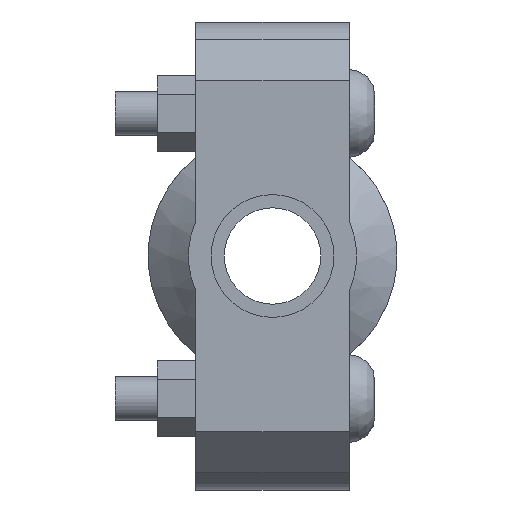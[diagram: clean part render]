
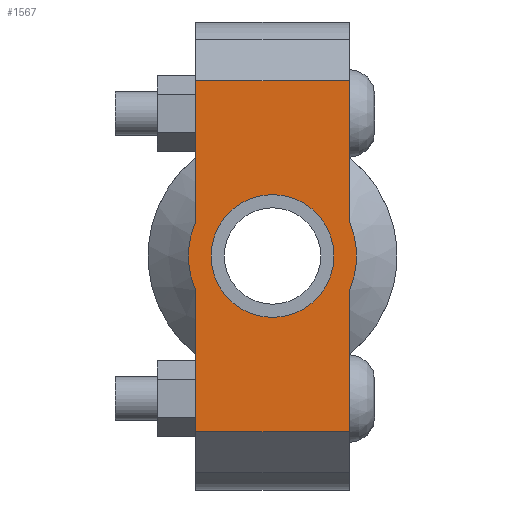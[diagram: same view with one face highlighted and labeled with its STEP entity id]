
A CAD part, left-side view. The second image highlights one B-rep face of the part: STEP entity #1567.
In plain terms, the highlighted planar face has unit normal (-1, 0, 0) as drawn and (0, 0, 1) by its records, which use the part's own axes.
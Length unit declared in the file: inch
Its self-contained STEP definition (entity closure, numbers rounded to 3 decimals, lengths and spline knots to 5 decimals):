
#178=LINE('',#2693,#273);
#193=LINE('',#2752,#288);
#201=LINE('',#2782,#296);
#203=LINE('',#2785,#298);
#204=LINE('',#2790,#299);
#205=LINE('',#2791,#300);
#273=VECTOR('',#2171,0.3937);
#288=VECTOR('',#2206,0.3937);
#296=VECTOR('',#2226,0.3937);
#298=VECTOR('',#2230,0.3937);
#299=VECTOR('',#2235,0.3937);
#300=VECTOR('',#2236,0.3937);
#360=FACE_BOUND('',#519,.T.);
#420=FACE_OUTER_BOUND('',#518,.T.);
#518=EDGE_LOOP('',(#1262,#1263,#1264,#1265,#1266,#1267,#1268,#1269));
#519=EDGE_LOOP('',(#1270));
#624=CIRCLE('',#1830,0.719);
#625=CIRCLE('',#1831,0.719);
#626=CIRCLE('',#1832,0.525);
#733=VERTEX_POINT('',#2690);
#734=VERTEX_POINT('',#2692);
#755=VERTEX_POINT('',#2747);
#756=VERTEX_POINT('',#2751);
#765=VERTEX_POINT('',#2777);
#766=VERTEX_POINT('',#2781);
#767=VERTEX_POINT('',#2787);
#768=VERTEX_POINT('',#2789);
#769=VERTEX_POINT('',#2793);
#903=EDGE_CURVE('',#734,#733,#178,.T.);
#928=EDGE_CURVE('',#756,#755,#193,.T.);
#941=EDGE_CURVE('',#766,#765,#201,.T.);
#943=EDGE_CURVE('',#766,#733,#203,.T.);
#944=EDGE_CURVE('',#765,#767,#624,.T.);
#945=EDGE_CURVE('',#767,#768,#204,.T.);
#946=EDGE_CURVE('',#756,#768,#205,.T.);
#947=EDGE_CURVE('',#755,#734,#625,.T.);
#948=EDGE_CURVE('',#769,#769,#626,.T.);
#1262=ORIENTED_EDGE('',*,*,#943,.F.);
#1263=ORIENTED_EDGE('',*,*,#941,.T.);
#1264=ORIENTED_EDGE('',*,*,#944,.T.);
#1265=ORIENTED_EDGE('',*,*,#945,.T.);
#1266=ORIENTED_EDGE('',*,*,#946,.F.);
#1267=ORIENTED_EDGE('',*,*,#928,.T.);
#1268=ORIENTED_EDGE('',*,*,#947,.T.);
#1269=ORIENTED_EDGE('',*,*,#903,.T.);
#1270=ORIENTED_EDGE('',*,*,#948,.T.);
#1419=PLANE('',#1829);
#1567=ADVANCED_FACE('',(#420,#360),#1419,.T.);
#1829=AXIS2_PLACEMENT_3D('',#2786,#2231,#2232);
#1830=AXIS2_PLACEMENT_3D('',#2788,#2233,#2234);
#1831=AXIS2_PLACEMENT_3D('',#2792,#2237,#2238);
#1832=AXIS2_PLACEMENT_3D('',#2794,#2239,#2240);
#2171=DIRECTION('',(1.,0.,0.));
#2206=DIRECTION('',(1.,0.,0.));
#2226=DIRECTION('',(-1.,0.,0.));
#2230=DIRECTION('',(0.,-1.,0.));
#2231=DIRECTION('center_axis',(0.,0.,1.));
#2232=DIRECTION('ref_axis',(-1.,0.,0.));
#2233=DIRECTION('center_axis',(0.,0.,1.));
#2234=DIRECTION('ref_axis',(1.,0.,0.));
#2235=DIRECTION('',(-1.,0.,0.));
#2236=DIRECTION('',(0.,1.,0.));
#2237=DIRECTION('center_axis',(0.,0.,1.));
#2238=DIRECTION('ref_axis',(1.,0.,0.));
#2239=DIRECTION('center_axis',(0.,0.,-1.));
#2240=DIRECTION('ref_axis',(1.,0.,0.));
#2690=CARTESIAN_POINT('',(1.5,-0.656,0.875));
#2692=CARTESIAN_POINT('',(0.29432,-0.656,0.875));
#2693=CARTESIAN_POINT('',(-2.,-0.656,0.875));
#2747=CARTESIAN_POINT('',(-0.29432,-0.656,0.875));
#2751=CARTESIAN_POINT('',(-1.5,-0.656,0.875));
#2752=CARTESIAN_POINT('',(-2.,-0.656,0.875));
#2777=CARTESIAN_POINT('',(0.29432,0.656,0.875));
#2781=CARTESIAN_POINT('',(1.5,0.656,0.875));
#2782=CARTESIAN_POINT('',(2.,0.656,0.875));
#2785=CARTESIAN_POINT('',(1.5,-0.328,0.875));
#2786=CARTESIAN_POINT('Origin',(0.,0.,
0.875));
#2787=CARTESIAN_POINT('',(-0.29432,0.656,0.875));
#2788=CARTESIAN_POINT('Origin',(0.,0.,0.875));
#2789=CARTESIAN_POINT('',(-1.5,0.656,0.875));
#2790=CARTESIAN_POINT('',(2.,0.656,0.875));
#2791=CARTESIAN_POINT('',(-1.5,0.328,0.875));
#2792=CARTESIAN_POINT('Origin',(0.,0.,0.875));
#2793=CARTESIAN_POINT('',(-0.525,0.,0.875));
#2794=CARTESIAN_POINT('Origin',(0.,0.,0.875));
